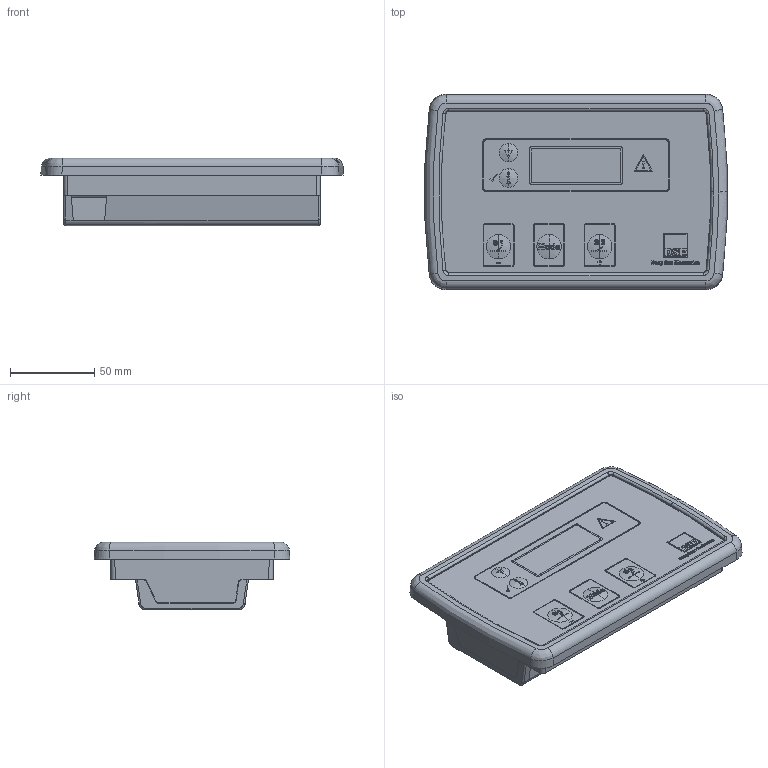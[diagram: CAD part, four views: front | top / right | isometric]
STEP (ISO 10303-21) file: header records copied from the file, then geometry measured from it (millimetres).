
FILE_DESCRIPTION (( 'STEP AP214' ), '1' );
FILE_NAME ('DSE331.STEP', '2016-01-08T09:49:52', ( '' ), ( '' ), 'SwSTEP 2.0', 'SolidWorks 2015', '' );
FILE_SCHEMA (( 'AUTOMOTIVE_DESIGN' ));
Length unit declared in the file: millimetre
Products named in the file (1): DSE331
Bounding box: 179.4 x 116 x 40.15 mm (x, y, z)
Volume: 528800.4 mm3; surface area: 59057.8 mm2
Topology: 1 solids, 1 shells, 905 faces, 2475 edges, 1642 vertices
Faces by surface type: bspline 480, plane 342, cylinder 44, sphere 34, cone 5
Entity records: 33529 total; most frequent: CARTESIAN_POINT 13253, ORIENTED_EDGE 4950, DIRECTION 2540, EDGE_CURVE 2475, VERTEX_POINT 1642, LINE 1234, VECTOR 1234, EDGE_LOOP 975
